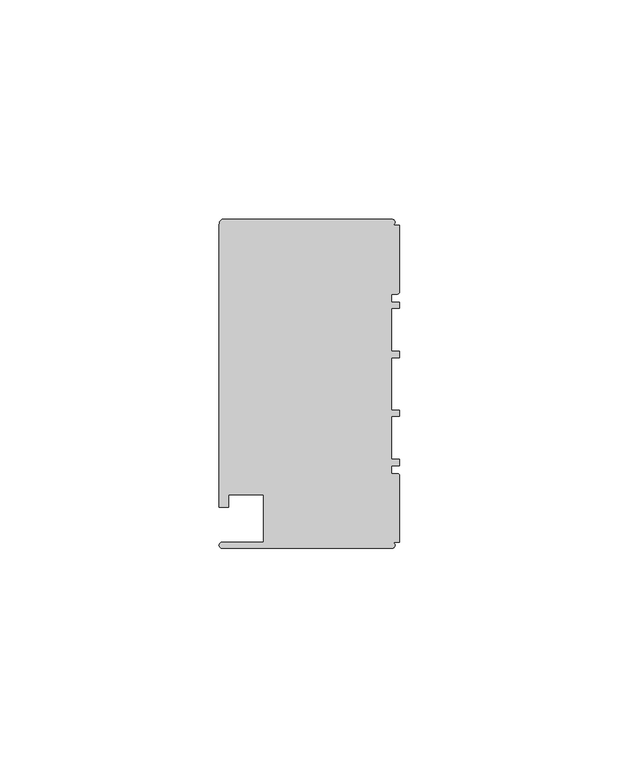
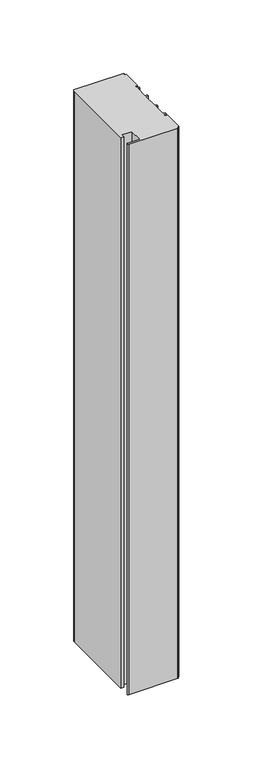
"""IFC4 building model written with IfcOpenShell, lengths in millimetres: member geometry, Прямоугольный импост : 1-AMG-1-Профиль 40Х75 Верх П."""

from ifc_helpers import new_model, si_unit, point, frame, frame_2d, origin, place, context, project, spatial, polyline, circle_curve, trimmed, segment, composite_curve, outline, extrude, source, transform, mapped, element, save


def member_7b23a373(model_context):
    return source(origin(), model_context, "Body", "SweptSolid", [
        extrude(outline(composite_curve([segment(polyline([(-1.7, -37.5), (-40.4, -37.5)]), True, "CONTINUOUS"), segment(trimmed(circle_curve(frame_2d((-40.4, -36.8)), 0.7), [point((-40.4, -37.5))], [point((-40.4, -36.1))], False, "CARTESIAN"), True, "CONTINUOUS"), segment(polyline([(-40.4, -36.1), (-31.0, -36.1), (-31.0, -25.25), (-39.0, -25.25), (-39.0, -28.1), (-41.1, -28.1), (-41.1, 36.1)]), True, "CONTINUOUS"), segment(trimmed(circle_curve(frame_2d((-39.7541527, 36.3020763)), 1.3609334), [point((-41.1, 36.1))], [point((-40.4, 37.5))], False, "CARTESIAN"), True, "CONTINUOUS"), segment(polyline([(-40.4, 37.5), (-1.7, 37.5)]), True, "CONTINUOUS"), segment(trimmed(circle_curve(frame_2d((-1.7, 36.8)), 0.7), [point((-1.7, 37.5))], [point((-1.7, 36.1))], False, "CARTESIAN"), True, "CONTINUOUS"), segment(polyline([(-1.7, 36.1), (0.0, 36.1), (0.0, 20.95)]), True, "CONTINUOUS"), segment(trimmed(circle_curve(frame_2d((-0.5, 20.95)), 0.5), [point((0.0, 20.95))], [point((-0.5, 20.45))], False, "CARTESIAN"), True, "CONTINUOUS"), segment(polyline([(-0.5, 20.45), (-1.8, 20.45), (-1.8, 18.65), (0.0, 18.65), (0.0, 17.25), (-1.8, 17.25), (-1.8, 7.4), (0.0, 7.4), (0.0, 6.0), (-1.8, 6.0), (-1.8, -6.0), (0.0, -6.0), (0.0, -7.4), (-1.8, -7.4), (-1.8, -17.25), (0.0, -17.25), (0.0, -18.65), (-1.8, -18.65), (-1.8, -20.45), (-0.5, -20.45)]), True, "CONTINUOUS"), segment(trimmed(circle_curve(frame_2d((-0.5, -20.95)), 0.5), [point((-0.5, -20.45))], [point((0.0, -20.95))], False, "CARTESIAN"), True, "CONTINUOUS"), segment(polyline([(0.0, -20.95), (0.0, -36.1), (-1.7, -36.1)]), True, "CONTINUOUS"), segment(trimmed(circle_curve(frame_2d((-1.7, -36.8)), 0.7), [point((-1.7, -36.1))], [point((-1.7, -37.5))], False, "CARTESIAN"), True, "CONTINUOUS")], self_intersect=False)), frame((0.0, 0.0, -460.0), z_axis=(0.0, 0.0, 1.0), x_axis=(1.0, 0.0, 0.0)), (0.0, 0.0, 1.0), 460.0),
    ])


if __name__ == "__main__":
    model = new_model("IFC4")
    model_context = context("Model", 3, world=origin())
    ifc_project = project(units=[si_unit("LENGTHUNIT", "METRE", prefix="MILLI")], contexts=[model_context])
    site = spatial("IfcSite", under=ifc_project)
    building = spatial("IfcBuilding", under=site)
    placement = place(None, origin())
    member_shape = member_7b23a373(model_context)
    element("IfcMember", 1, ObjectType="Прямоугольный импост : 1-AMG-1-Профиль 40Х75 Верх П", at=placement, inside=building, context=model_context, shape_type="MappedRepresentation", body=[
        mapped(member_shape, transform((0.0, 0.0, 0.0), x_axis=(1.0, 0.0, 0.0), y_axis=(0.0, 1.0, 0.0), z_axis=(0.0, 0.0, 1.0))),
    ])
    save(model, "model.ifc")
